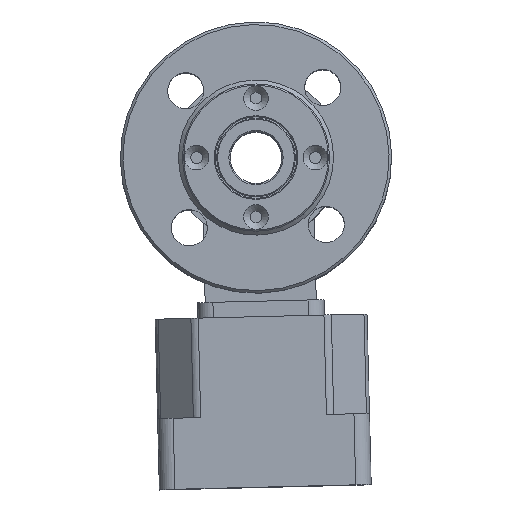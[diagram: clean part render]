
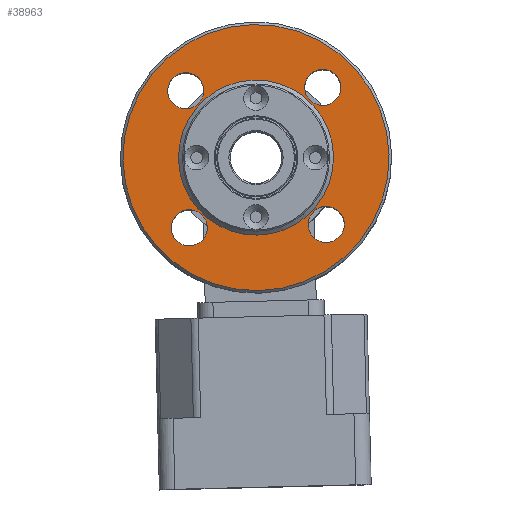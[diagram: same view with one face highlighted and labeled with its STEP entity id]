
A CAD part, top view. The second image highlights one B-rep face of the part: STEP entity #38963.
In plain terms, the highlighted planar face has unit normal (0, 0, 1).
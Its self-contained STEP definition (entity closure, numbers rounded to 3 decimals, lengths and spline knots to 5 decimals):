
#1970=FACE_BOUND('',#7388,.T.);
#1971=FACE_BOUND('',#7389,.T.);
#1972=FACE_BOUND('',#7390,.T.);
#1973=FACE_BOUND('',#7391,.T.);
#1974=FACE_BOUND('',#7392,.T.);
#3150=PLANE('',#41191);
#5101=FACE_OUTER_BOUND('',#7387,.T.);
#7387=EDGE_LOOP('',(#34143,#34144));
#7388=EDGE_LOOP('',(#34145,#34146));
#7389=EDGE_LOOP('',(#34147));
#7390=EDGE_LOOP('',(#34148));
#7391=EDGE_LOOP('',(#34149));
#7392=EDGE_LOOP('',(#34150));
#15454=CIRCLE('',#41175,0.007);
#15456=CIRCLE('',#41179,0.007);
#15458=CIRCLE('',#41183,0.007);
#15460=CIRCLE('',#41187,0.007);
#15461=CIRCLE('',#41189,0.03);
#15462=CIRCLE('',#41190,0.03);
#15463=CIRCLE('',#41192,0.0515);
#15464=CIRCLE('',#41193,0.0515);
#18811=VERTEX_POINT('',#67316);
#18813=VERTEX_POINT('',#67324);
#18815=VERTEX_POINT('',#67332);
#18817=VERTEX_POINT('',#67340);
#18818=VERTEX_POINT('',#67344);
#18819=VERTEX_POINT('',#67345);
#18820=VERTEX_POINT('',#67350);
#18821=VERTEX_POINT('',#67351);
#23959=EDGE_CURVE('',#18811,#18811,#15454,.T.);
#23963=EDGE_CURVE('',#18813,#18813,#15456,.T.);
#23967=EDGE_CURVE('',#18815,#18815,#15458,.T.);
#23971=EDGE_CURVE('',#18817,#18817,#15460,.T.);
#23973=EDGE_CURVE('',#18818,#18819,#15461,.T.);
#23974=EDGE_CURVE('',#18819,#18818,#15462,.T.);
#23976=EDGE_CURVE('',#18820,#18821,#15463,.T.);
#23977=EDGE_CURVE('',#18821,#18820,#15464,.T.);
#34143=ORIENTED_EDGE('',*,*,#23976,.F.);
#34144=ORIENTED_EDGE('',*,*,#23977,.F.);
#34145=ORIENTED_EDGE('',*,*,#23973,.T.);
#34146=ORIENTED_EDGE('',*,*,#23974,.T.);
#34147=ORIENTED_EDGE('',*,*,#23959,.T.);
#34148=ORIENTED_EDGE('',*,*,#23967,.T.);
#34149=ORIENTED_EDGE('',*,*,#23971,.T.);
#34150=ORIENTED_EDGE('',*,*,#23963,.T.);
#38963=ADVANCED_FACE('',(#5101,#1970,#1971,#1972,#1973,#1974),#3150,.T.);
#41175=AXIS2_PLACEMENT_3D('',#67317,#49000,#49001);
#41179=AXIS2_PLACEMENT_3D('',#67325,#49010,#49011);
#41183=AXIS2_PLACEMENT_3D('',#67333,#49020,#49021);
#41187=AXIS2_PLACEMENT_3D('',#67341,#49030,#49031);
#41189=AXIS2_PLACEMENT_3D('',#67346,#49035,#49036);
#41190=AXIS2_PLACEMENT_3D('',#67347,#49037,#49038);
#41191=AXIS2_PLACEMENT_3D('',#67349,#49040,#49041);
#41192=AXIS2_PLACEMENT_3D('',#67352,#49042,#49043);
#41193=AXIS2_PLACEMENT_3D('',#67353,#49044,#49045);
#49000=DIRECTION('center_axis',(0.,0.,
-1.));
#49001=DIRECTION('ref_axis',(-1.,-0.025,0.));
#49010=DIRECTION('center_axis',(0.,0.,
-1.));
#49011=DIRECTION('ref_axis',(-1.,-0.025,0.));
#49020=DIRECTION('center_axis',(0.,0.,
-1.));
#49021=DIRECTION('ref_axis',(-1.,-0.025,0.));
#49030=DIRECTION('center_axis',(0.,0.,
-1.));
#49031=DIRECTION('ref_axis',(-1.,-0.025,0.));
#49035=DIRECTION('center_axis',(0.,0.,
-1.));
#49036=DIRECTION('ref_axis',(0.025,-1.,0.));
#49037=DIRECTION('center_axis',(0.,0.,
-1.));
#49038=DIRECTION('ref_axis',(0.025,-1.,0.));
#49040=DIRECTION('center_axis',(0.,0.,
1.));
#49041=DIRECTION('ref_axis',(1.,0.,0.));
#49042=DIRECTION('center_axis',(0.,0.,
-1.));
#49043=DIRECTION('ref_axis',(0.025,-1.,0.));
#49044=DIRECTION('center_axis',(0.,0.,
-1.));
#49045=DIRECTION('ref_axis',(0.025,-1.,0.));
#67316=CARTESIAN_POINT('',(-0.02016,0.02603,-0.00345));
#67317=CARTESIAN_POINT('Origin',(-0.02716,0.02586,
-0.00345));
#67324=CARTESIAN_POINT('',(0.03285,0.02733,-0.00345));
#67325=CARTESIAN_POINT('Origin',(0.02586,0.02716,-0.00345));
#67332=CARTESIAN_POINT('',(0.03416,-0.02568,-0.00345));
#67333=CARTESIAN_POINT('Origin',(0.02716,-0.02586,
-0.00345));
#67340=CARTESIAN_POINT('',(-0.01886,-0.02699,-0.00345));
#67341=CARTESIAN_POINT('Origin',(-0.02586,-0.02716,
-0.00345));
#67344=CARTESIAN_POINT('',(0.00074,-0.02999,-0.00345));
#67345=CARTESIAN_POINT('',(-0.00074,0.02999,-0.00345));
#67346=CARTESIAN_POINT('Origin',(0.,0.,-0.00345));
#67347=CARTESIAN_POINT('Origin',(0.,0.,-0.00345));
#67349=CARTESIAN_POINT('Origin',(0.001,-0.04074,
-0.00345));
#67350=CARTESIAN_POINT('',(0.00127,-0.05148,-0.00345));
#67351=CARTESIAN_POINT('',(-0.00127,0.05148,-0.00345));
#67352=CARTESIAN_POINT('Origin',(0.,0.,-0.00345));
#67353=CARTESIAN_POINT('Origin',(0.,0.,-0.00345));
